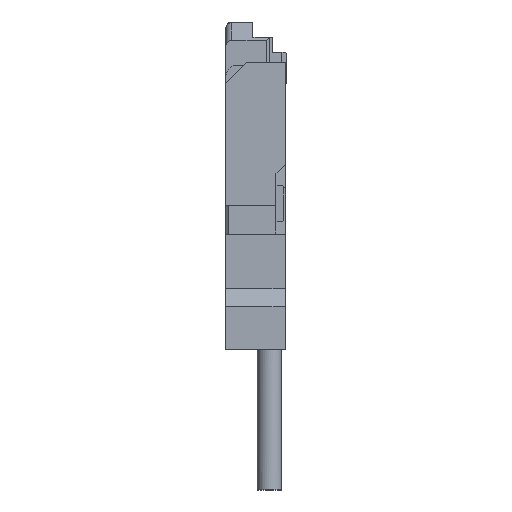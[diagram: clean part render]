
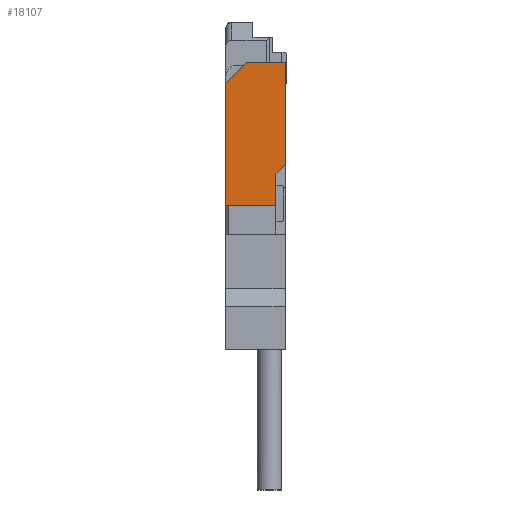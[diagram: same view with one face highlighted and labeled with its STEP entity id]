
A CAD part, left-side view. The second image highlights one B-rep face of the part: STEP entity #18107.
In plain terms, the highlighted planar face has unit normal (-1, 0, 0).
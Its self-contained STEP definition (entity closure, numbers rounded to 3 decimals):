
#199 = VERTEX_POINT ( 'NONE', #6899 ) ;
#297 = VERTEX_POINT ( 'NONE', #6997 ) ;
#1064 = EDGE_LOOP ( 'NONE', ( #15559, #15560, #15561, #15562, #15563, #15564, #15565 ) ) ;
#3990 = CARTESIAN_POINT ( 'NONE',  ( -4.35, 1., -1.2 ) ) ;
#3991 = DIRECTION ( 'NONE',  ( 0., 0., 1. ) ) ;
#4190 = LINE ( 'NONE', #3990, #4193 ) ;
#4193 = VECTOR ( 'NONE', #3991, 1000. ) ;
#6899 = CARTESIAN_POINT ( 'NONE',  ( -4.35, 1., -2.53 ) ) ;
#6997 = CARTESIAN_POINT ( 'NONE',  ( -4.35, 1., -0.52 ) ) ;
#11415 = EDGE_CURVE ( 'NONE', #297, #17485, #29821, .T. ) ;
#11419 = EDGE_CURVE ( 'NONE', #199, #17480, #29829, .T. ) ;
#11541 = EDGE_CURVE ( 'NONE', #17419, #17430, #29969, .T. ) ;
#11545 = EDGE_CURVE ( 'NONE', #17480, #17430, #29977, .T. ) ;
#11546 = EDGE_CURVE ( 'NONE', #17420, #17419, #29979, .T. ) ;
#11547 = EDGE_CURVE ( 'NONE', #17485, #17420, #29971, .T. ) ;
#15559 = ORIENTED_EDGE ( 'NONE', *, *, #11415, .F. ) ;
#15560 = ORIENTED_EDGE ( 'NONE', *, *, #24024, .F. ) ;
#15561 = ORIENTED_EDGE ( 'NONE', *, *, #11419, .T. ) ;
#15562 = ORIENTED_EDGE ( 'NONE', *, *, #11545, .T. ) ;
#15563 = ORIENTED_EDGE ( 'NONE', *, *, #11541, .F. ) ;
#15564 = ORIENTED_EDGE ( 'NONE', *, *, #11546, .F. ) ;
#15565 = ORIENTED_EDGE ( 'NONE', *, *, #11547, .F. ) ;
#17419 = VERTEX_POINT ( 'NONE', #39933 ) ;
#17420 = VERTEX_POINT ( 'NONE', #39934 ) ;
#17430 = VERTEX_POINT ( 'NONE', #39944 ) ;
#17480 = VERTEX_POINT ( 'NONE', #39994 ) ;
#17485 = VERTEX_POINT ( 'NONE', #39999 ) ;
#18107 = ADVANCED_FACE ( 'NONE', ( #38502 ), #40780, .F. ) ;
#24024 = EDGE_CURVE ( 'NONE', #199, #297, #4190, .T. ) ;
#28884 = AXIS2_PLACEMENT_3D ( 'NONE', #40781, #40786, #40787 ) ;
#29821 = LINE ( 'NONE', #30884, #29824 ) ;
#29824 = VECTOR ( 'NONE', #30885, 1000. ) ;
#29829 = LINE ( 'NONE', #30892, #29832 ) ;
#29832 = VECTOR ( 'NONE', #30894, 1000. ) ;
#29969 = LINE ( 'NONE', #31552, #29972 ) ;
#29971 = LINE ( 'NONE', #31529, #29984 ) ;
#29972 = VECTOR ( 'NONE', #31554, 1000. ) ;
#29977 = LINE ( 'NONE', #31560, #29980 ) ;
#29979 = LINE ( 'NONE', #31562, #29982 ) ;
#29980 = VECTOR ( 'NONE', #31561, 1000. ) ;
#29982 = VECTOR ( 'NONE', #31564, 1000. ) ;
#29984 = VECTOR ( 'NONE', #31565, 1000. ) ;
#30884 = CARTESIAN_POINT ( 'NONE',  ( -4.35, 1., -0.52 ) ) ;
#30885 = DIRECTION ( 'NONE',  ( 0., -0.707, 0.707 ) ) ;
#30892 = CARTESIAN_POINT ( 'NONE',  ( -4.35, 1., -2.53 ) ) ;
#30894 = DIRECTION ( 'NONE',  ( 0., -1., 0. ) ) ;
#31529 = CARTESIAN_POINT ( 'NONE',  ( -4.35, 0.02, -0.17 ) ) ;
#31552 = CARTESIAN_POINT ( 'NONE',  ( -4.35, 0.17, -2. ) ) ;
#31554 = DIRECTION ( 'NONE',  ( 0., 0.707, -0.707 ) ) ;
#31560 = CARTESIAN_POINT ( 'NONE',  ( -4.35, 0.17, -3. ) ) ;
#31561 = DIRECTION ( 'NONE',  ( 0., 0., 1. ) ) ;
#31562 = CARTESIAN_POINT ( 'NONE',  ( -4.35, 0.02, -0.17 ) ) ;
#31564 = DIRECTION ( 'NONE',  ( 0., 0., -1. ) ) ;
#31565 = DIRECTION ( 'NONE',  ( 0., -1., 0. ) ) ;
#38502 = FACE_OUTER_BOUND ( 'NONE', #1064, .T. ) ;
#39933 = CARTESIAN_POINT ( 'NONE',  ( -4.35, 0.02, -1.85 ) ) ;
#39934 = CARTESIAN_POINT ( 'NONE',  ( -4.35, 0.02, -0.17 ) ) ;
#39944 = CARTESIAN_POINT ( 'NONE',  ( -4.35, 0.17, -2. ) ) ;
#39994 = CARTESIAN_POINT ( 'NONE',  ( -4.35, 0.17, -2.53 ) ) ;
#39999 = CARTESIAN_POINT ( 'NONE',  ( -4.35, 0.65, -0.17 ) ) ;
#40780 = PLANE ( 'NONE',  #28884 ) ;
#40781 = CARTESIAN_POINT ( 'NONE',  ( -4.35, 0.53, -3. ) ) ;
#40786 = DIRECTION ( 'NONE',  ( 1., 0., 0. ) ) ;
#40787 = DIRECTION ( 'NONE',  ( 0., 0., 1. ) ) ;
